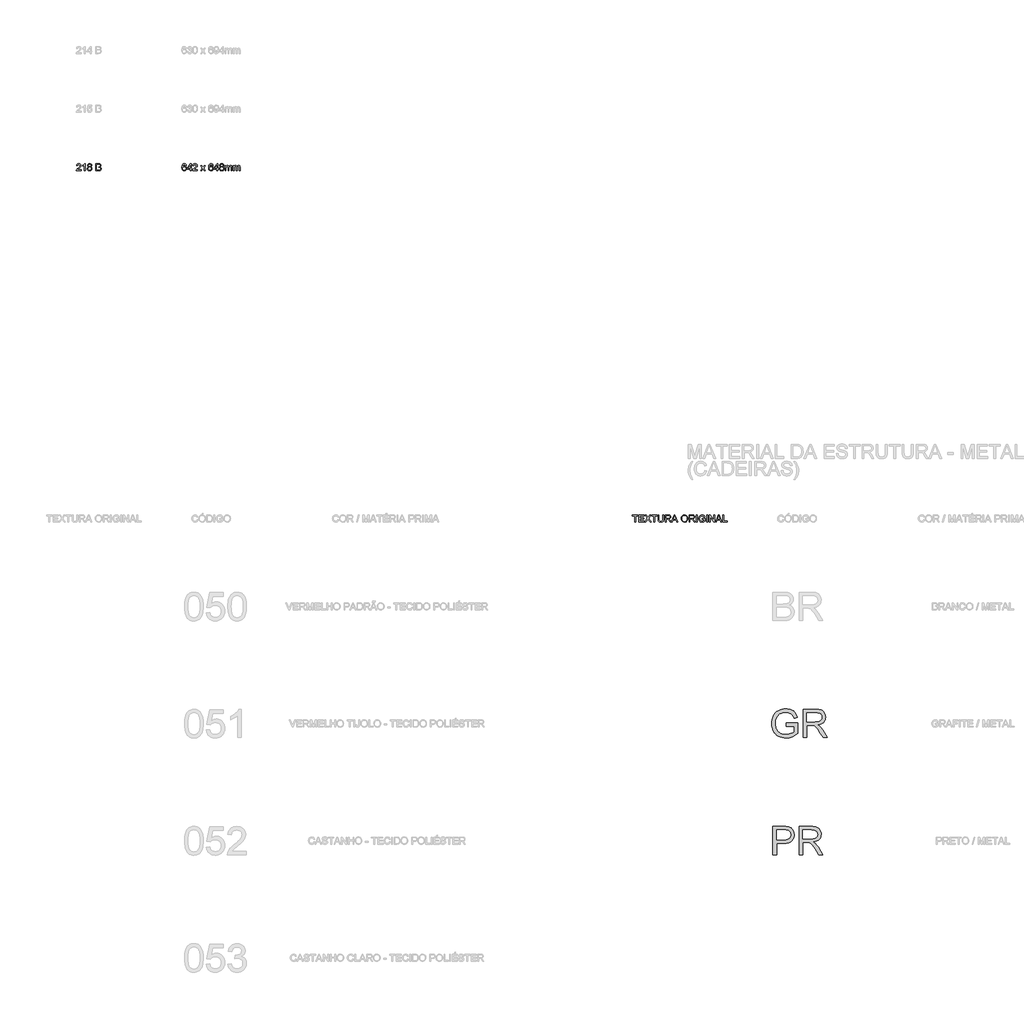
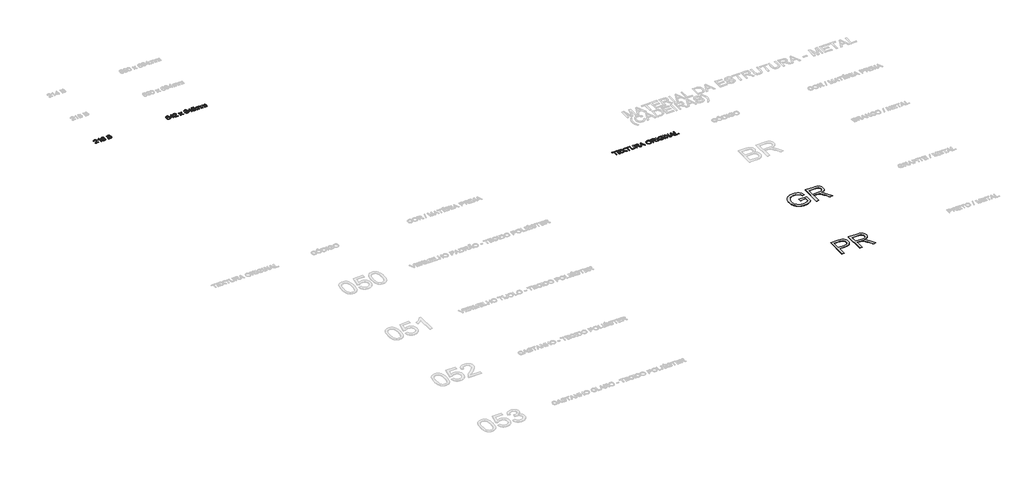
# One storey, part 27 of 35: 5 proxies.
"""IFC4 building model written with IfcOpenShell, lengths in millimetres."""

from ifc_helpers import new_model, si_unit, origin, origin_with_axes, place, context, project, spatial, polyline, outline, extrude, element, save

model = new_model("IFC4")

# Units and contexts
model_context = context("Model", 3, world=origin())
ifc_project = project(units=[si_unit("LENGTHUNIT", "METRE", prefix="MILLI")], contexts=[model_context])

# Site, building, storey
site = spatial("IfcSite", under=ifc_project)
building = spatial("IfcBuilding", under=site)
storey = spatial("IfcBuildingStorey", under=building, Name="Marelli - Linha YOU - Planta Baixa", Elevation=0.0)

# Proxies
placement = place(None, origin())
element("IfcBuildingElementProxy", 1, Name="1200mm Arial", ObjectType="1200mm Arial", at=placement, inside=storey, context=model_context, shape_type="SweptSolid", body=[
    extrude(outline(polyline([(-124.6247047, -30480.5663201), (-124.6247047, -29275.0905983), (322.1311902, -29275.0905983), (426.1682184, -29277.9600778), (502.246215, -29286.5685165), (544.1755654, -29295.6092166), (582.5548546, -29308.0160368), (617.3840825, -29323.7889774), (648.6632491, -29342.9280382), (676.7234483, -29365.8286924), (701.8957738, -29392.8864131), (724.1802257, -29424.1012004), (743.5768039, -29459.4730543), (759.2853651, -29497.8339493), (770.5057659, -29538.0158602), (777.2380064, -29580.018787), (779.4820866, -29623.8427297), (773.4212307, -29697.842193), (765.8451609, -29732.6208371), (755.2386631, -29765.9187562), (741.6017374, -29797.7359503), (724.9343838, -29828.0724193), (705.2366022, -29856.9281633), (682.5083927, -29884.3031823), (655.8254517, -29909.2731727), (624.2634758, -29930.9138311), (587.8224649, -29949.2251574), (546.5024191, -29964.2071516), (500.3033382, -29975.8598138), (449.2252225, -29984.183144), (393.2680718, -29989.1771421), (332.4318861, -29990.8418081), (26.0597605, -29990.8418081), (26.0597605, -30480.5663201), (-124.6247047, -30480.5663201)]), holes=[polyline([(26.0597605, -29840.1573429), (341.2610539, -29840.1573429), (413.733807, -29836.6992521), (474.8757946, -29826.3249798), (524.6870167, -29809.0345261), (563.1674734, -29784.8278908), (591.8806632, -29754.3488675), (612.3900844, -29718.2412497), (624.6957371, -29676.5050373), (628.7976214, -29629.1402304), (626.3787973, -29593.9707117), (619.1223249, -29561.4499433), (607.0282043, -29531.5779253), (590.0964355, -29504.3546577), (569.2283293, -29480.6630572), (545.3251967, -29461.3860406), (518.3870376, -29446.523608), (488.413852, -29436.0757594), (430.2884968, -29428.3502375), (337.7293868, -29425.7750635), (26.0597605, -29425.7750635), (26.0597605, -29840.1573429)])]), origin_with_axes(), (0.0, 0.0, 1.0), 10.0),
    extrude(outline(polyline([(986.6732263, -30480.5663201), (986.6732263, -29275.0905983), (1506.1226035, -29275.0905983), (1580.6830868, -29277.1231463), (1645.7338206, -29283.2207904), (1701.2748049, -29293.3835305), (1747.3060395, -29307.6113666), (1786.5038661, -29326.9987478), (1821.5446261, -29352.6401229), (1852.4283196, -29384.5354918), (1879.1549466, -29422.6848547), (1900.7220286, -29465.0372694), (1916.1270871, -29509.5417938), (1925.3701222, -29556.1984278), (1928.4511339, -29605.0071715), (1923.3467713, -29666.9217113), (1908.0336832, -29723.7594796), (1882.5118698, -29775.5204763), (1846.781331, -29822.2047015), (1824.9728265, -29843.2705442), (1800.3822144, -29862.3222331), (1742.8546674, -29894.383149), (1674.19869, -29918.3874491), (1594.4142823, -29934.3351336), (1644.0783517, -29966.7823256), (1680.0572108, -29998.7880592), (1741.7878096, -30071.9965762), (1802.1940332, -30153.8871084), (2003.2047554, -30480.5663201), (1828.0929257, -30480.5663201), (1671.2280429, -30230.7008689), (1608.4673745, -30135.3458558), (1557.9203884, -30065.3011239), (1515.7978999, -30017.0717943), (1478.3107246, -29987.1629881), (1442.8101121, -29969.615017), (1406.647312, -29958.4681925), (1371.4042168, -29954.495067), (1319.2385499, -29953.1706918), (1137.3576915, -29953.1706918), (1137.3576915, -30480.5663201), (986.6732263, -30480.5663201)]), holes=[polyline([(1137.3576915, -29802.4862266), (1474.6319047, -29802.4862266), (1571.495234, -29797.1519376), (1611.7875095, -29790.4840765), (1646.6535256, -29781.1490708), (1676.8750315, -29768.8802063), (1703.2337765, -29753.4107684), (1725.7297605, -29734.7407571), (1744.3629836, -29712.8701725), (1758.9770958, -29688.8750694), (1769.4157474, -29663.8315026), (1775.6789384, -29637.7394721), (1777.7666687, -29610.5989779), (1773.7843461, -29572.0633389), (1761.8373783, -29537.0961552), (1741.9257653, -29505.6974269), (1714.0495071, -29477.867154), (1677.5648103, -29455.0768644), (1631.8278812, -29438.7980861), (1576.83872, -29429.0308192), (1512.5973266, -29425.7750635), (1137.3576915, -29425.7750635), (1137.3576915, -29802.4862266)])]), origin_with_axes(), (0.0, 0.0, 1.0), 10.0),
])
element("IfcBuildingElementProxy", 2, Name="1200mm Arial", ObjectType="1200mm Arial", at=placement, inside=storey, context=model_context, shape_type="SweptSolid", body=[
    extrude(outline(polyline([(440.4420398, -25009.6773662), (440.4420398, -24858.992901), (930.1665518, -24858.992901), (930.1665518, -25309.5747687), (871.1306887, -25353.886155), (811.1567264, -25392.3482176), (750.244665, -25424.9609565), (688.3945046, -25451.7243716), (625.6798215, -25472.5832808), (562.1741921, -25487.4825016), (497.8776163, -25496.4220341), (432.7900943, -25499.4018782), (346.2366579, -25494.6653975), (263.7483176, -25480.4559555), (185.3250732, -25456.773552), (110.966925, -25423.6181872), (43.0743028, -25381.4865017), (-15.9523634, -25330.8751362), (-66.1130734, -25271.7840908), (-107.4078274, -25204.2133653), (-139.6618813, -25130.3242666), (-162.7004912, -25052.2781013), (-176.5236572, -24970.0748695), (-181.1313792, -24883.7145711), (-176.5420513, -24797.3450757), (-162.7740676, -24713.9370303), (-139.8274282, -24633.490435), (-107.702133, -24556.0052898), (-66.9683991, -24484.8845031), (-18.1964435, -24423.5309833), (38.6137336, -24371.9447306), (103.4621323, -24330.1257448), (174.9416039, -24297.8073115), (251.6449999, -24274.7227163), (333.5723202, -24260.8719592), (420.7235649, -24256.2550401), (484.348756, -24258.9313816), (544.8469501, -24266.9604062), (602.2181472, -24280.3421138), (656.4623474, -24299.0765044), (706.3011607, -24322.5841639), (750.4561972, -24350.2856781), (788.9274568, -24382.1810471), (821.7149396, -24418.2702708), (849.8671093, -24459.3718867), (874.4324296, -24506.3044322), (895.4109003, -24559.0679074), (912.8025217, -24617.6623122), (773.8902803, -24656.8049565), (759.2209857, -24614.6548769), (742.8778281, -24577.3792337), (724.8608074, -24544.978027), (705.1699236, -24517.4512567), (682.4348163, -24493.6125034), (655.285125, -24472.2753477), (623.7208498, -24453.4397895), (587.7419907, -24437.1058289), (548.516573, -24423.9080624), (507.212622, -24414.4810862), (463.8301377, -24408.8249006), (418.3691201, -24406.9395053), (364.4836049, -24408.9720534), (314.3688801, -24415.0696974), (268.0249458, -24425.2324376), (225.4518019, -24439.4602737), (186.7322219, -24456.9898508), (151.9489792, -24477.0578136), (121.1020739, -24499.6641622), (94.191506, -24524.8088966), (49.8617256, -24580.2487133), (16.6419814, -24640.9124543), (-3.9594103, -24696.6465765), (-18.6746901, -24754.6615672), (-27.503858, -24814.9574262), (-30.446914, -24877.5341536), (-26.9060498, -24952.7752186), (-16.2834572, -25021.6335311), (1.4208639, -25084.1090909), (26.2069133, -25140.2018981), (57.7527944, -25189.7004206), (95.7366104, -25232.3931261), (140.1583613, -25268.2800148), (191.0180471, -25297.3610865), (245.9336319, -25319.8294793), (302.5230799, -25335.8783314), (360.7863908, -25345.5076426), (420.7235649, -25348.717413), (473.2295227, -25346.2985889), (525.0916869, -25339.0421165), (576.3100577, -25326.9479959), (626.884635, -25310.0162271), (715.2866784, -25270.0274542), (750.4102119, -25249.0673776), (779.4820866, -25227.4635074), (779.4820866, -25009.6773662), (440.4420398, -25009.6773662)])), origin_with_axes(), (0.0, 0.0, 1.0), 10.0),
    extrude(outline(polyline([(1175.0288078, -25480.5663201), (1175.0288078, -24275.0905983), (1694.478185, -24275.0905983), (1769.0386684, -24277.1231463), (1834.0894022, -24283.2207904), (1889.6303864, -24293.3835305), (1935.661621, -24307.6113666), (1974.8594476, -24326.9987478), (2009.9002077, -24352.6401229), (2040.7839012, -24384.5354918), (2067.5105281, -24422.6848547), (2089.0776101, -24465.0372694), (2104.4826686, -24509.5417938), (2113.7257038, -24556.1984278), (2116.8067155, -24605.0071715), (2111.7023528, -24666.9217113), (2096.3892647, -24723.7594796), (2070.8674513, -24775.5204763), (2035.1369125, -24822.2047015), (2013.328408, -24843.2705442), (1988.7377959, -24862.3222331), (1931.2102489, -24894.383149), (1862.5542716, -24918.3874491), (1782.7698638, -24934.3351336), (1832.4339332, -24966.7823256), (1868.4127923, -24998.7880592), (1930.1433911, -25071.9965762), (1990.5496147, -25153.8871084), (2191.5603369, -25480.5663201), (2016.4485072, -25480.5663201), (1859.5836244, -25230.7008689), (1796.8229561, -25135.3458558), (1746.2759699, -25065.3011239), (1704.1534815, -25017.0717943), (1666.6663062, -24987.1629881), (1631.1656936, -24969.615017), (1595.0028935, -24958.4681925), (1559.7597984, -24954.495067), (1507.5941315, -24953.1706918), (1325.713273, -24953.1706918), (1325.713273, -25480.5663201), (1175.0288078, -25480.5663201)]), holes=[polyline([(1325.713273, -24802.4862266), (1662.9874862, -24802.4862266), (1759.8508155, -24797.1519376), (1800.1430911, -24790.4840765), (1835.0091072, -24781.1490708), (1865.2306131, -24768.8802063), (1891.589358, -24753.4107684), (1914.085342, -24734.7407571), (1932.7185651, -24712.8701725), (1947.3326773, -24688.8750694), (1957.771329, -24663.8315026), (1964.0345199, -24637.7394721), (1966.1222502, -24610.5989779), (1962.1399276, -24572.0633389), (1950.1929599, -24537.0961552), (1930.2813469, -24505.6974269), (1902.4050887, -24477.867154), (1865.9203918, -24455.0768644), (1820.1834628, -24438.7980861), (1765.1943015, -24429.0308192), (1700.9529081, -24425.7750635), (1325.713273, -24425.7750635), (1325.713273, -24802.4862266)])]), origin_with_axes(), (0.0, 0.0, 1.0), 10.0),
])
element("IfcBuildingElementProxy", 3, Name="300mm Arial", ObjectType="300mm Arial", at=placement, inside=storey, context=model_context, shape_type="SweptSolid", body=[
    extrude(outline(polyline([(-29649.0268614, -1242.8952038), (-29649.0268614, -1280.5663201), (-29846.800222, -1280.5663201), (-29842.75352, -1254.5938512), (-29833.4644997, -1234.2959621), (-29819.8712599, -1214.6050783), (-29800.2079673, -1193.9944896), (-29772.7087882, -1170.9374855), (-29732.0578277, -1134.8298677), (-29707.6672514, -1108.1768171), (-29695.4719633, -1086.5453558), (-29691.4068672, -1065.5025057), (-29695.242037, -1046.6393564), (-29706.7475464, -1030.9583863), (-29724.4334733, -1020.390976), (-29746.8098957, -1016.8685059), (-29770.3083581, -1020.3082026), (-29788.5645022, -1030.6272925), (-29800.345923, -1047.0164354), (-29804.4202161, -1068.6662908), (-29842.0913324, -1063.9574013), (-29832.9586619, -1027.5186897), (-29824.4123033, -1012.9827524), (-29813.2125958, -1000.9024273), (-29799.6170568, -991.4064733), (-29783.8832038, -984.623649), (-29746.0005553, -979.1973896), (-29725.8107316, -980.7057058), (-29707.8419954, -985.2306543), (-29692.0943467, -992.7722352), (-29678.5677856, -1003.3304485), (-29667.7037704, -1016.1235449), (-29659.9437596, -1030.3697751), (-29655.2877531, -1046.0691393), (-29653.7357509, -1063.2216373), (-29655.409614, -1081.238658), (-29660.4312032, -1098.942979), (-29669.3431446, -1116.9508027), (-29682.6880639, -1135.8783314), (-29703.9608403, -1158.4754829), (-29736.6563526, -1187.4921753), (-29779.9928517, -1223.7285518), (-29796.9889998, -1242.8952038), (-29649.0268614, -1242.8952038)])), origin_with_axes(), (0.0, 0.0, 1.0), 10.0),
    extrude(outline(polyline([(-29470.0890589, -1280.5663201), (-29507.7601752, -1280.5663201), (-29507.7601752, -1045.7104543), (-29543.4447288, -1071.1311002), (-29583.1024078, -1090.1505994), (-29583.1024078, -1054.5396222), (-29553.5154984, -1038.4447849), (-29527.8833204, -1019.2965271), (-29507.6774018, -998.9342587), (-29494.3692706, -979.1973896), (-29470.0890589, -979.1973896), (-29470.0890589, -1280.5663201)])), origin_with_axes(), (0.0, 0.0, 1.0), 10.0),
    extrude(outline(polyline([(-29325.732164, -1114.5779638), (-29345.9012944, -1104.64515), (-29360.0555542, -1091.180669), (-29368.4156725, -1074.4604323), (-29371.2023786, -1054.7603514), (-29369.6848654, -1039.3966796), (-29365.1323257, -1025.3113977), (-29357.5447596, -1012.5045058), (-29346.9221669, -1000.9760037), (-29333.7749841, -991.4478601), (-29318.6136474, -984.6420431), (-29282.2485122, -979.1973896), (-29245.6626478, -984.7708018), (-29230.3357641, -991.7375671), (-29216.9862462, -1001.4910385), (-29206.1705156, -1013.2448683), (-29198.4449937, -1026.2127086), (-29193.8096805, -1040.3945595), (-29192.2645762, -1055.790421), (-29195.0144941, -1074.8559054), (-29203.2642478, -1091.2910335), (-29217.1058079, -1104.6727411), (-29236.6311448, -1114.5779638), (-29213.445382, -1126.5249316), (-29196.5687955, -1144.1188881), (-29186.2772967, -1166.5137045), (-29182.8467971, -1192.8632524), (-29184.5482513, -1211.6528253), (-29189.652614, -1228.8788997), (-29198.1598851, -1244.5414757), (-29210.0700647, -1258.6405532), (-29224.7577534, -1270.2932154), (-29241.5975517, -1278.6165455), (-29260.5894597, -1283.6105436), (-29281.7334774, -1285.2752096), (-29302.8774951, -1283.6036458), (-29321.8694031, -1278.5889543), (-29338.7092014, -1270.2311353), (-29353.3968901, -1258.5301886), (-29365.3070696, -1244.3322428), (-29373.8143408, -1228.4834266), (-29378.9187035, -1210.9837399), (-29380.6201577, -1191.8331828), (-29377.0517023, -1164.4627624), (-29366.3463363, -1141.9483843), (-29349.0558825, -1125.0626007), (-29325.732164, -1114.5779638)]), holes=[polyline([(-29333.5312623, -1055.8639974), (-29330.1927332, -1072.3083226), (-29320.1771459, -1085.4417098), (-29303.778806, -1094.0501485), (-29281.292019, -1096.9196281), (-29259.3294639, -1094.0685426), (-29243.1794443, -1085.5152862), (-29233.2466304, -1072.8233574), (-29229.9356925, -1057.5562546), (-29233.356995, -1041.7097376), (-29243.6209027, -1028.6039416), (-29259.9916515, -1019.8023648), (-29281.7334774, -1016.8685059), (-29303.6132591, -1019.7379855), (-29319.9564167, -1028.3464242), (-29330.1375509, -1040.9647766), (-29333.5312623, -1055.8639974)]), polyline([(-29342.9490414, -1190.5088076), (-29336.6582593, -1218.8725095), (-29327.948653, -1231.0402065), (-29314.4013986, -1240.0993006), (-29298.1778026, -1245.7278951), (-29281.4391718, -1247.6040933), (-29255.7977967, -1243.6585589), (-29236.5575684, -1231.8219557), (-29224.5278271, -1213.8969055), (-29220.5179134, -1191.68603), (-29224.6565858, -1169.0980755), (-29237.0726032, -1150.7775522), (-29256.7542899, -1138.6374463), (-29282.6899706, -1134.5907444), (-29307.9726607, -1138.582264), (-29327.019751, -1150.556823), (-29338.9667188, -1168.5278584), (-29342.9490414, -1190.5088076)])]), origin_with_axes(), (0.0, 0.0, 1.0), 10.0),
    extrude(outline(polyline([(-29018.0356633, -1280.5663201), (-29018.0356633, -979.1973896), (-28903.0357516, -979.1973896), (-28871.407097, -981.4138786), (-28846.7130181, -988.0633457), (-28827.7854894, -999.3113377), (-28813.4564857, -1015.3234015), (-28804.4341798, -1034.1589597), (-28801.4267445, -1053.8774346), (-28803.9559332, -1072.0232141), (-28811.5434994, -1089.0837416), (-28824.2446252, -1104.0105535), (-28842.1144932, -1115.7551862), (-28820.7681404, -1126.9020107), (-28804.9951998, -1143.8613707), (-28795.255524, -1165.5112261), (-28792.0089654, -1190.7295368), (-28794.2254544, -1211.7447958), (-28800.8749215, -1231.2333445), (-28810.7985383, -1247.8064284), (-28822.8374766, -1260.0752929), (-28837.5803476, -1268.9596431), (-28855.6157624, -1275.3791839), (-28903.9186683, -1280.5663201), (-29018.0356633, -1280.5663201)]), holes=[polyline([(-28980.3645469, -1101.6285176), (-28911.5706138, -1101.6285176), (-28871.3979, -1098.3911561), (-28857.3356107, -1092.8085468), (-28847.2280529, -1084.4484284), (-28841.1304088, -1073.4395597), (-28839.0978608, -1059.9106994), (-28840.9924531, -1046.7773121), (-28846.6762299, -1035.3361821), (-28855.8916739, -1026.4058467), (-28868.3812676, -1020.8048433), (-28916.7945382, -1016.8685059), (-28980.3645469, -1016.8685059), (-28980.3645469, -1101.6285176)]), polyline([(-28980.3645469, -1242.8952038), (-28903.109328, -1242.8952038), (-28875.1502963, -1241.4236758), (-28851.495484, -1233.2199073), (-28835.823711, -1216.4812765), (-28831.2159891, -1204.6538704), (-28829.6800817, -1191.0974188), (-28831.4827035, -1175.3520694), (-28836.8905688, -1161.814012), (-28846.3359391, -1151.2282076), (-28860.2510755, -1144.3396173), (-28879.9603534, -1140.5596298), (-28906.7881479, -1139.2996339), (-28980.3645469, -1139.2996339), (-28980.3645469, -1242.8952038)])]), origin_with_axes(), (0.0, 0.0, 1.0), 10.0),
])
element("IfcBuildingElementProxy", 4, Name="300mm Arial", ObjectType="300mm Arial", at=placement, inside=storey, context=model_context, shape_type="SweptSolid", body=[
    extrude(outline(polyline([(-25150.5235972, -1059.2485118), (-25188.1947135, -1063.9574013), (-25194.2647664, -1045.2873901), (-25202.4685349, -1032.5402789), (-25219.5566536, -1020.7864492), (-25240.2132276, -1016.8685059), (-25257.7244106, -1019.1493743), (-25274.205524, -1025.9919794), (-25288.3597837, -1040.4037566), (-25299.9204754, -1060.2417932), (-25307.7287708, -1088.3019923), (-25310.6258415, -1127.3802573), (-25295.5150886, -1109.7495127), (-25277.4060973, -1097.3242983), (-25257.3105434, -1089.9574613), (-25236.2401021, -1087.501849), (-25218.1403079, -1089.1803106), (-25201.4384653, -1094.2156954), (-25186.1345743, -1102.6080034), (-25172.2286349, -1114.3572346), (-25160.6725417, -1128.7644133), (-25152.4181895, -1145.1305635), (-25147.4655781, -1163.4556854), (-25145.8147077, -1183.7397789), (-25148.9233105, -1210.7147262), (-25158.2491191, -1235.7215049), (-25173.0195812, -1256.9299019), (-25192.4621447, -1272.5097044), (-25215.6938927, -1282.0838333), (-25241.8319084, -1285.2752096), (-25264.288805, -1283.1598881), (-25284.5705992, -1276.8139237), (-25302.6772911, -1266.2373164), (-25318.6088808, -1251.4300661), (-25331.5974145, -1231.7667734), (-25340.8749386, -1206.622039), (-25346.441453, -1175.9958629), (-25348.2969578, -1139.8882451), (-25346.2368186, -1099.4074301), (-25340.0564011, -1064.8587122), (-25329.7557053, -1036.2420915), (-25315.334731, -1013.557568), (-25299.7043448, -998.5249899), (-25281.581558, -987.7874342), (-25260.9663707, -981.3449008), (-25237.8587829, -979.1973896), (-25204.8045856, -984.5132844), (-25178.335476, -1000.4609689), (-25159.7942235, -1025.7896443), (-25150.5235972, -1059.2485118)]), holes=[polyline([(-25310.6258415, -1183.1511677), (-25308.4461407, -1199.8438133), (-25301.9070382, -1215.7823007), (-25291.7534952, -1229.485905), (-25278.7304725, -1239.4739012), (-25263.0127143, -1245.5715453), (-25244.7749644, -1247.6040933), (-25219.9153385, -1243.3918445), (-25200.3716076, -1230.7550979), (-25187.7072699, -1210.8894702), (-25183.485824, -1184.9905777), (-25187.6520876, -1160.1309519), (-25200.1508784, -1141.1758321), (-25220.0257031, -1129.173682), (-25246.3200687, -1125.1729653), (-25271.1429064, -1129.173682), (-25291.900648, -1141.1758321), (-25305.9445431, -1159.6710994), (-25310.6258415, -1183.1511677)])]), origin_with_axes(), (0.0, 0.0, 1.0), 10.0),
    extrude(outline(polyline([(-24990.4213529, -1280.5663201), (-24990.4213529, -1209.932977), (-25126.9791495, -1209.932977), (-25126.9791495, -1172.2618607), (-24981.0035738, -983.9062792), (-24952.7502366, -983.9062792), (-24952.7502366, -1172.2618607), (-24915.0791203, -1172.2618607), (-24915.0791203, -1209.932977), (-24952.7502366, -1209.932977), (-24952.7502366, -1280.5663201), (-24990.4213529, -1280.5663201)]), holes=[polyline([(-24990.4213529, -1172.2618607), (-24990.4213529, -1055.8639974), (-25080.6260181, -1172.2618607), (-24990.4213529, -1172.2618607)])]), origin_with_axes(), (0.0, 0.0, 1.0), 10.0),
    extrude(outline(polyline([(-24689.0524225, -1242.8952038), (-24689.0524225, -1280.5663201), (-24886.8257831, -1280.5663201), (-24882.7790811, -1254.5938512), (-24873.4900607, -1234.2959621), (-24859.896821, -1214.6050783), (-24840.2335284, -1193.9944896), (-24812.7343492, -1170.9374855), (-24772.0833888, -1134.8298677), (-24747.6928125, -1108.1768171), (-24735.4975243, -1086.5453558), (-24731.4324283, -1065.5025057), (-24735.2675981, -1046.6393564), (-24746.7731075, -1030.9583863), (-24764.4590344, -1020.390976), (-24786.8354568, -1016.8685059), (-24810.3339192, -1020.3082026), (-24828.5900632, -1030.6272925), (-24840.3714841, -1047.0164354), (-24844.4457772, -1068.6662908), (-24882.1168935, -1063.9574013), (-24872.984223, -1027.5186897), (-24864.4378644, -1012.9827524), (-24853.2381569, -1000.9024273), (-24839.6426179, -991.4064733), (-24823.9087648, -984.623649), (-24786.0261164, -979.1973896), (-24765.8362926, -980.7057058), (-24747.8675564, -985.2306543), (-24732.1199078, -992.7722352), (-24718.5933467, -1003.3304485), (-24707.7293315, -1016.1235449), (-24699.9693207, -1030.3697751), (-24695.3133142, -1046.0691393), (-24693.761312, -1063.2216373), (-24695.4351751, -1081.238658), (-24700.4567643, -1098.942979), (-24709.3687056, -1116.9508027), (-24722.713625, -1135.8783314), (-24743.9864014, -1158.4754829), (-24776.6819137, -1187.4921753), (-24820.0184127, -1223.7285518), (-24837.0145609, -1242.8952038), (-24689.0524225, -1242.8952038)])), origin_with_axes(), (0.0, 0.0, 1.0), 10.0),
    extrude(outline(polyline([(-24547.7857363, -1280.5663201), (-24467.2931558, -1169.3188047), (-24543.0768468, -1059.2485118), (-24497.753785, -1059.2485118), (-24461.1863146, -1112.2235191), (-24444.1165901, -1137.2394947), (-24429.3277339, -1116.7852558), (-24387.683492, -1059.2485118), (-24342.3604302, -1059.2485118), (-24421.970094, -1169.3188047), (-24345.3034862, -1280.5663201), (-24390.626548, -1280.5663201), (-24436.7589502, -1213.6853733), (-24445.2202361, -1201.4716911), (-24502.4626745, -1280.5663201), (-24547.7857363, -1280.5663201)])), origin_with_axes(), (0.0, 0.0, 1.0), 10.0),
    extrude(outline(polyline([(-24010.9723289, -1059.2485118), (-24048.6434453, -1063.9574013), (-24054.7134982, -1045.2873901), (-24062.9172667, -1032.5402789), (-24080.0053853, -1020.7864492), (-24100.6619594, -1016.8685059), (-24118.1731423, -1019.1493743), (-24134.6542557, -1025.9919794), (-24148.8085155, -1040.4037566), (-24160.3692072, -1060.2417932), (-24168.1775025, -1088.3019923), (-24171.0745732, -1127.3802573), (-24155.9638203, -1109.7495127), (-24137.8548291, -1097.3242983), (-24117.7592751, -1089.9574613), (-24096.6888338, -1087.501849), (-24078.5890397, -1089.1803106), (-24061.8871971, -1094.2156954), (-24046.5833061, -1102.6080034), (-24032.6773667, -1114.3572346), (-24021.1212735, -1128.7644133), (-24012.8669212, -1145.1305635), (-24007.9143099, -1163.4556854), (-24006.2634394, -1183.7397789), (-24009.3720423, -1210.7147262), (-24018.6978508, -1235.7215049), (-24033.468313, -1256.9299019), (-24052.9108764, -1272.5097044), (-24076.1426244, -1282.0838333), (-24102.2806401, -1285.2752096), (-24124.7375367, -1283.1598881), (-24145.0193309, -1276.8139237), (-24163.1260229, -1266.2373164), (-24179.0576125, -1251.4300661), (-24192.0461462, -1231.7667734), (-24201.3236703, -1206.622039), (-24206.8901847, -1175.9958629), (-24208.7456896, -1139.8882451), (-24206.6855504, -1099.4074301), (-24200.5051329, -1064.8587122), (-24190.204437, -1036.2420915), (-24175.7834628, -1013.557568), (-24160.1530765, -998.5249899), (-24142.0302897, -987.7874342), (-24121.4151024, -981.3449008), (-24098.3075146, -979.1973896), (-24065.2533173, -984.5132844), (-24038.7842078, -1000.4609689), (-24020.2429552, -1025.7896443), (-24010.9723289, -1059.2485118)]), holes=[polyline([(-24171.0745732, -1183.1511677), (-24168.8948724, -1199.8438133), (-24162.35577, -1215.7823007), (-24152.2022269, -1229.485905), (-24139.1792043, -1239.4739012), (-24123.461446, -1245.5715453), (-24105.2236961, -1247.6040933), (-24080.3640703, -1243.3918445), (-24060.8203393, -1230.7550979), (-24048.1560016, -1210.8894702), (-24043.9345557, -1184.9905777), (-24048.1008193, -1160.1309519), (-24060.5996101, -1141.1758321), (-24080.4744349, -1129.173682), (-24106.7688005, -1125.1729653), (-24131.5916381, -1129.173682), (-24152.3493797, -1141.1758321), (-24166.3932749, -1159.6710994), (-24171.0745732, -1183.1511677)])]), origin_with_axes(), (0.0, 0.0, 1.0), 10.0),
    extrude(outline(polyline([(-23850.8700846, -1280.5663201), (-23850.8700846, -1209.932977), (-23987.4278813, -1209.932977), (-23987.4278813, -1172.2618607), (-23841.4523056, -983.9062792), (-23813.1989683, -983.9062792), (-23813.1989683, -1172.2618607), (-23775.527852, -1172.2618607), (-23775.527852, -1209.932977), (-23813.1989683, -1209.932977), (-23813.1989683, -1280.5663201), (-23850.8700846, -1280.5663201)]), holes=[polyline([(-23850.8700846, -1172.2618607), (-23850.8700846, -1055.8639974), (-23941.0747499, -1172.2618607), (-23850.8700846, -1172.2618607)])]), origin_with_axes(), (0.0, 0.0, 1.0), 10.0),
    extrude(outline(polyline([(-23687.6776316, -1114.5779638), (-23707.846762, -1104.64515), (-23722.0010217, -1091.180669), (-23730.3611401, -1074.4604323), (-23733.1478462, -1054.7603514), (-23731.630333, -1039.3966796), (-23727.0777933, -1025.3113977), (-23719.4902271, -1012.5045058), (-23708.8676345, -1000.9760037), (-23695.7204517, -991.4478601), (-23680.559115, -984.6420431), (-23644.1939798, -979.1973896), (-23607.6081153, -984.7708018), (-23592.2812317, -991.7375671), (-23578.9317138, -1001.4910385), (-23568.1159832, -1013.2448683), (-23560.3904613, -1026.2127086), (-23555.7551481, -1040.3945595), (-23554.2100437, -1055.790421), (-23556.9599616, -1074.8559054), (-23565.2097154, -1091.2910335), (-23579.0512755, -1104.6727411), (-23598.5766124, -1114.5779638), (-23575.3908496, -1126.5249316), (-23558.5142631, -1144.1188881), (-23548.2227643, -1166.5137045), (-23544.7922647, -1192.8632524), (-23546.4937189, -1211.6528253), (-23551.5980816, -1228.8788997), (-23560.1053527, -1244.5414757), (-23572.0155323, -1258.6405532), (-23586.703221, -1270.2932154), (-23603.5430193, -1278.6165455), (-23622.5349273, -1283.6105436), (-23643.678945, -1285.2752096), (-23664.8229626, -1283.6036458), (-23683.8148706, -1278.5889543), (-23700.654669, -1270.2311353), (-23715.3423576, -1258.5301886), (-23727.2525372, -1244.3322428), (-23735.7598084, -1228.4834266), (-23740.864171, -1210.9837399), (-23742.5656253, -1191.8331828), (-23738.9971699, -1164.4627624), (-23728.2918039, -1141.9483843), (-23711.0013501, -1125.0626007), (-23687.6776316, -1114.5779638)]), holes=[polyline([(-23695.4767299, -1055.8639974), (-23692.1382008, -1072.3083226), (-23682.1226135, -1085.4417098), (-23665.7242735, -1094.0501485), (-23643.2374866, -1096.9196281), (-23621.2749315, -1094.0685426), (-23605.1249119, -1085.5152862), (-23595.192098, -1072.8233574), (-23591.88116, -1057.5562546), (-23595.3024626, -1041.7097376), (-23605.5663703, -1028.6039416), (-23621.937119, -1019.8023648), (-23643.678945, -1016.8685059), (-23665.5587266, -1019.7379855), (-23681.9018843, -1028.3464242), (-23692.0830185, -1040.9647766), (-23695.4767299, -1055.8639974)]), polyline([(-23704.894509, -1190.5088076), (-23698.6037268, -1218.8725095), (-23689.8941206, -1231.0402065), (-23676.3468661, -1240.0993006), (-23660.1232701, -1245.7278951), (-23643.3846394, -1247.6040933), (-23617.7432643, -1243.6585589), (-23598.503036, -1231.8219557), (-23586.4732947, -1213.8969055), (-23582.463381, -1191.68603), (-23586.6020534, -1169.0980755), (-23599.0180707, -1150.7775522), (-23618.6997575, -1138.6374463), (-23644.6354381, -1134.5907444), (-23669.9181283, -1138.582264), (-23688.9652186, -1150.556823), (-23700.9121864, -1168.5278584), (-23704.894509, -1190.5088076)])]), origin_with_axes(), (0.0, 0.0, 1.0), 10.0),
    extrude(outline(polyline([(-23502.4122588, -1280.5663201), (-23502.4122588, -1059.2485118), (-23464.7411425, -1059.2485118), (-23464.7411425, -1095.6688293), (-23453.4103771, -1078.9393956), (-23438.84225, -1065.8335995), (-23421.5334022, -1057.3631165), (-23401.9804741, -1054.5396222), (-23381.0295945, -1057.4182988), (-23364.2357814, -1066.0543287), (-23351.6910054, -1079.8774946), (-23343.4872369, -1098.3175797), (-23329.7560414, -1079.1647233), (-23314.0934655, -1065.4841116), (-23296.4995091, -1057.2757446), (-23276.9741722, -1054.5396222), (-23248.6564556, -1059.0921619), (-23227.714773, -1072.749781), (-23214.7745238, -1095.8803614), (-23210.4611074, -1128.8517853), (-23210.4611074, -1280.5663201), (-23248.1322237, -1280.5663201), (-23248.1322237, -1145.038593), (-23251.6271027, -1113.5846825), (-23256.5383273, -1104.9118644), (-23264.2822433, -1098.0968505), (-23274.2426484, -1093.6822665), (-23285.8033401, -1092.2107385), (-23306.2115937, -1095.981529), (-23322.849057, -1107.2939003), (-23333.913108, -1126.9204048), (-23337.601125, -1155.6335945), (-23337.601125, -1280.5663201), (-23375.2722413, -1280.5663201), (-23375.2722413, -1140.8447383), (-23377.4519421, -1119.5443708), (-23383.9910446, -1104.3508444), (-23395.496554, -1095.245765), (-23412.5754756, -1092.2107385), (-23427.0884203, -1094.2340895), (-23440.4609308, -1100.3041424), (-23451.4973907, -1110.2737445), (-23459.0021834, -1123.9957429), (-23463.3064027, -1143.0336362), (-23464.7411425, -1168.9509227), (-23464.7411425, -1280.5663201), (-23502.4122588, -1280.5663201)])), origin_with_axes(), (0.0, 0.0, 1.0), 10.0),
    extrude(outline(polyline([(-23153.954433, -1280.5663201), (-23153.954433, -1059.2485118), (-23116.2833167, -1059.2485118), (-23116.2833167, -1095.6688293), (-23104.9525512, -1078.9393956), (-23090.3844242, -1065.8335995), (-23073.0755763, -1057.3631165), (-23053.5226483, -1054.5396222), (-23032.5717687, -1057.4182988), (-23015.7779556, -1066.0543287), (-23003.2331796, -1079.8774946), (-22995.0294111, -1098.3175797), (-22981.2982156, -1079.1647233), (-22965.6356397, -1065.4841116), (-22948.0416832, -1057.2757446), (-22928.5163463, -1054.5396222), (-22900.1986298, -1059.0921619), (-22879.2569472, -1072.749781), (-22866.316698, -1095.8803614), (-22862.0032816, -1128.8517853), (-22862.0032816, -1280.5663201), (-22899.6743979, -1280.5663201), (-22899.6743979, -1145.038593), (-22903.1692769, -1113.5846825), (-22908.0805015, -1104.9118644), (-22915.8244175, -1098.0968505), (-22925.7848225, -1093.6822665), (-22937.3455142, -1092.2107385), (-22957.7537679, -1095.981529), (-22974.3912311, -1107.2939003), (-22985.4552821, -1126.9204048), (-22989.1432991, -1155.6335945), (-22989.1432991, -1280.5663201), (-23026.8144154, -1280.5663201), (-23026.8144154, -1140.8447383), (-23028.9941163, -1119.5443708), (-23035.5332187, -1104.3508444), (-23047.0387281, -1095.245765), (-23064.1176498, -1092.2107385), (-23078.6305945, -1094.2340895), (-23092.003105, -1100.3041424), (-23103.0395648, -1110.2737445), (-23110.5443576, -1123.9957429), (-23114.8485769, -1143.0336362), (-23116.2833167, -1168.9509227), (-23116.2833167, -1280.5663201), (-23153.954433, -1280.5663201)])), origin_with_axes(), (0.0, 0.0, 1.0), 10.0),
])
element("IfcBuildingElementProxy", 5, Name="300mm Arial", ObjectType="300mm Arial", at=placement, inside=storey, context=model_context, shape_type="SweptSolid", body=[
    extrude(outline(polyline([(-6021.6681618, -16280.5663201), (-6021.6681618, -16016.8685059), (-6120.5548421, -16016.8685059), (-6120.5548421, -15979.1973896), (-5885.1103652, -15979.1973896), (-5885.1103652, -16016.8685059), (-5983.9970455, -16016.8685059), (-5983.9970455, -16280.5663201), (-6021.6681618, -16280.5663201)])), origin_with_axes(), (0.0, 0.0, 1.0), 10.0),
    extrude(outline(polyline([(-5842.7303593, -16280.5663201), (-5842.7303593, -15979.1973896), (-5626.1214406, -15979.1973896), (-5626.1214406, -16016.8685059), (-5805.059243, -16016.8685059), (-5805.059243, -16106.3374072), (-5635.5392196, -16106.3374072), (-5635.5392196, -16144.0085235), (-5805.059243, -16144.0085235), (-5805.059243, -16242.8952038), (-5621.412551, -16242.8952038), (-5621.412551, -16280.5663201), (-5842.7303593, -16280.5663201)])), origin_with_axes(), (0.0, 0.0, 1.0), 10.0),
    extrude(outline(polyline([(-5597.8681033, -16280.5663201), (-5481.6909693, -16116.3437974), (-5579.0325452, -15979.1973896), (-5533.8566362, -15979.1973896), (-5479.0422189, -16056.3790322), (-5460.5745427, -16086.4717794), (-5438.9430814, -16055.8639974), (-5384.7172753, -15979.1973896), (-5338.8791787, -15979.1973896), (-5436.2207547, -16116.7852558), (-5320.0436206, -16280.5663201), (-5365.2195296, -16280.5663201), (-5442.6219014, -16171.3789439), (-5458.7351328, -16148.717413), (-5476.4670449, -16173.5862359), (-5552.0300067, -16280.5663201), (-5597.8681033, -16280.5663201)])), origin_with_axes(), (0.0, 0.0, 1.0), 10.0),
    extrude(outline(polyline([(-5207.0302717, -16280.5663201), (-5207.0302717, -16016.8685059), (-5305.916952, -16016.8685059), (-5305.916952, -15979.1973896), (-5070.4724751, -15979.1973896), (-5070.4724751, -16016.8685059), (-5169.3591554, -16016.8685059), (-5169.3591554, -16280.5663201), (-5207.0302717, -16280.5663201)])), origin_with_axes(), (0.0, 0.0, 1.0), 10.0),
    extrude(outline(polyline([(-4830.3191086, -15979.1973896), (-4792.6479923, -15979.1973896), (-4792.6479923, -16153.0584205), (-4795.2047722, -16193.7737604), (-4802.8751118, -16225.1265034), (-4817.2041155, -16249.3147446), (-4839.7368877, -16268.5365788), (-4870.5286107, -16281.0905519), (-4909.6344668, -16285.2752096), (-4947.8849972, -16281.6331779), (-4978.4651881, -16270.7070826), (-5001.3842364, -16252.8740029), (-5016.6513392, -16228.5110178), (-5025.2321867, -16195.8338995), (-5028.0924692, -16153.0584205), (-5028.0924692, -15979.1973896), (-4990.4213529, -15979.1973896), (-4990.4213529, -16151.7340454), (-4988.5635488, -16185.588386), (-4982.9901366, -16209.1604248), (-4972.8917758, -16225.4851883), (-4957.4591261, -16237.597703), (-4937.335981, -16245.1024957), (-4913.1661339, -16247.6040933), (-4874.8512241, -16242.6560805), (-4860.5084248, -16236.4710644), (-4849.375396, -16227.812042), (-4841.0382702, -16215.6351479), (-4835.0831804, -16198.8965171), (-4830.3191086, -16151.7340454), (-4830.3191086, -15979.1973896)])), origin_with_axes(), (0.0, 0.0, 1.0), 10.0),
    extrude(outline(polyline([(-4726.7235388, -16280.5663201), (-4726.7235388, -15979.1973896), (-4596.8611945, -15979.1973896), (-4561.9583902, -15981.2299376), (-4536.5653355, -15987.3275817), (-4518.0056888, -15998.5847708), (-4503.6031087, -16016.0959537), (-4494.3600736, -16037.8101885), (-4491.2790618, -16061.6765329), (-4496.3834245, -16091.3646099), (-4511.6965126, -16115.9759154), (-4523.2962917, -16126.0052983), (-4537.6781785, -16134.0205273), (-4574.7882748, -16144.0085235), (-4553.3775426, -16160.1217548), (-4522.843337, -16198.8965171), (-4472.5906565, -16280.5663201), (-4516.3686139, -16280.5663201), (-4555.5848346, -16218.0999573), (-4583.9117482, -16176.750021), (-4603.8141642, -16157.2154871), (-4621.7300173, -16150.0417882), (-4643.5822079, -16148.717413), (-4689.0524225, -16148.717413), (-4689.0524225, -16280.5663201), (-4726.7235388, -16280.5663201)]), holes=[polyline([(-4689.0524225, -16111.0462967), (-4604.7338692, -16111.0462967), (-4580.5180368, -16109.7127245), (-4561.7284639, -16105.7120078), (-4547.5834012, -16098.7774322), (-4537.3010994, -16088.6422832), (-4531.0379085, -16076.3826157), (-4528.9501782, -16063.0744845), (-4532.9325008, -16044.6987789), (-4544.8794685, -16029.8915286), (-4565.434875, -16020.1242616), (-4595.2425137, -16016.8685059), (-4689.0524225, -16016.8685059), (-4689.0524225, -16111.0462967)])]), origin_with_axes(), (0.0, 0.0, 1.0), 10.0),
    extrude(outline(polyline([(-4460.4505507, -16280.5663201), (-4340.1531382, -15979.1973896), (-4308.0738283, -15979.1973896), (-4187.7764158, -16280.5663201), (-4227.5812477, -16280.5663201), (-4262.0885789, -16186.3885293), (-4386.211964, -16186.3885293), (-4420.6457188, -16280.5663201), (-4460.4505507, -16280.5663201)]), holes=[polyline([(-4372.379601, -16148.717413), (-4275.8473655, -16148.717413), (-4302.9970567, -16074.6259792), (-4324.1134832, -16016.8685059), (-4342.875465, -16068.1512561), (-4372.379601, -16148.717413)])]), origin_with_axes(), (0.0, 0.0, 1.0), 10.0),
    extrude(outline(polyline([(-4043.9345557, -16133.8549804), (-4041.4237611, -16098.5061192), (-4033.8913772, -16067.213157), (-4021.3374042, -16039.9760937), (-4003.7618418, -16016.7949295), (-3982.2177525, -15998.2858666), (-3957.7581983, -15985.0651074), (-3930.3831794, -15977.1326519), (-3900.0926956, -15974.4885001), (-3860.5637752, -15979.454907), (-3825.118345, -15994.3541278), (-3795.6877854, -16018.1376988), (-3774.2034768, -16049.7571563), (-3761.0700896, -16087.68579), (-3756.6922939, -16130.3968896), (-3761.3000159, -16173.6782064), (-3775.1231818, -16212.140269), (-3797.3984366, -16243.8149088), (-3827.3624252, -16266.733957), (-3862.5043527, -16280.6398965), (-3900.3134248, -16285.2752096), (-3940.4493505, -16280.1524528), (-3976.0971158, -16264.7841825), (-4005.454099, -16240.5591531), (-4026.7176783, -16208.8661192), (-4039.6303364, -16172.3998164), (-4043.9345557, -16133.8549804)]), holes=[polyline([(-4006.2634394, -16134.2228624), (-4004.3803434, -16159.1974513), (-3998.7310556, -16181.3669401), (-3989.3155757, -16200.7313286), (-3976.133904, -16217.2906169), (-3960.1103438, -16230.5527628), (-3942.1691988, -16240.0257242), (-3922.3104688, -16245.709501), (-3900.534154, -16247.6040933), (-3878.3853586, -16245.6911069), (-3858.2921039, -16239.9521478), (-3840.2543898, -16230.3872159), (-3824.2722164, -16216.9963113), (-3811.1871137, -16200.0875351), (-3801.8406117, -16179.9689885), (-3796.2327106, -16156.6406715), (-3794.3634102, -16130.102584), (-3797.5639835, -16096.7540812), (-3807.1657036, -16067.9305269), (-3822.9202501, -16044.358488), (-3844.5793025, -16026.7645316), (-3870.7081212, -16015.8108452), (-3899.8719664, -16012.1596164), (-3920.8918239, -16013.9185522), (-3940.3941682, -16019.1953595), (-3958.3789992, -16027.9900385), (-3974.846317, -16040.302589), (-3988.5913081, -16056.7262208), (-3998.4091588, -16077.8541437), (-4004.2998693, -16103.6863575), (-4006.2634394, -16134.2228624)])]), origin_with_axes(), (0.0, 0.0, 1.0), 10.0),
    extrude(outline(polyline([(-3704.894509, -16280.5663201), (-3704.894509, -15979.1973896), (-3575.0321647, -15979.1973896), (-3540.1293604, -15981.2299376), (-3514.7363057, -15987.3275817), (-3496.176659, -15998.5847708), (-3481.7740789, -16016.0959537), (-3472.5310438, -16037.8101885), (-3469.450032, -16061.6765329), (-3474.5543947, -16091.3646099), (-3489.8674828, -16115.9759154), (-3501.4672619, -16126.0052983), (-3515.8491487, -16134.0205273), (-3552.959245, -16144.0085235), (-3531.5485128, -16160.1217548), (-3501.0143072, -16198.8965171), (-3450.7616267, -16280.5663201), (-3494.5395841, -16280.5663201), (-3533.7558048, -16218.0999573), (-3562.0827184, -16176.750021), (-3581.9851344, -16157.2154871), (-3599.9009875, -16150.0417882), (-3621.753178, -16148.717413), (-3667.2233927, -16148.717413), (-3667.2233927, -16280.5663201), (-3704.894509, -16280.5663201)]), holes=[polyline([(-3667.2233927, -16111.0462967), (-3582.9048394, -16111.0462967), (-3558.689007, -16109.7127245), (-3539.8994341, -16105.7120078), (-3525.7543714, -16098.7774322), (-3515.4720696, -16088.6422832), (-3509.2088787, -16076.3826157), (-3507.1211484, -16063.0744845), (-3511.1034709, -16044.6987789), (-3523.0504387, -16029.8915286), (-3543.6058452, -16020.1242616), (-3573.4134839, -16016.8685059), (-3667.2233927, -16016.8685059), (-3667.2233927, -16111.0462967)])]), origin_with_axes(), (0.0, 0.0, 1.0), 10.0),
    extrude(outline(polyline([(-3398.816689, -16280.5663201), (-3398.816689, -15979.1973896), (-3361.1455727, -15979.1973896), (-3361.1455727, -16280.5663201), (-3398.816689, -16280.5663201)])), origin_with_axes(), (0.0, 0.0, 1.0), 10.0),
    extrude(outline(polyline([(-3144.5366539, -16162.8440816), (-3144.5366539, -16125.1729653), (-3022.1055259, -16125.1729653), (-3022.1055259, -16237.8184322), (-3051.8579823, -16258.5117945), (-3082.5485377, -16273.355833), (-3114.1036159, -16282.2953654), (-3146.4496403, -16285.2752096), (-3188.7100845, -16280.5387289), (-3226.9054326, -16266.3292869), (-3258.6352547, -16243.1435241), (-3281.4991207, -16211.4780814), (-3295.3222867, -16173.4942654), (-3299.9300087, -16131.3533828), (-3295.3406808, -16088.9089976), (-3281.5726971, -16049.4260625), (-3259.1962748, -16016.3074859), (-3228.7816308, -15992.9561762), (-3191.7359139, -15979.1054191), (-3149.4662726, -15974.4885001), (-3118.4354263, -15977.1648416), (-3090.531577, -15985.1938661), (-3067.0331146, -15997.9961596), (-3049.218429, -16014.9923078), (-3036.0390565, -16037.0008481), (-3026.4465335, -16064.8403181), (-3061.1745938, -16074.6259792), (-3068.9277068, -16054.7695485), (-3078.354683, -16039.7875542), (-3090.8258826, -16028.493577), (-3107.7116662, -16019.7011973), (-3127.8440084, -16014.0450116), (-3150.0548838, -16012.1596164), (-3176.0549438, -16014.1921644), (-3198.2842134, -16020.2898085), (-3216.6599191, -16029.6891935), (-3231.0992874, -16041.6269642), (-3250.4866685, -16070.6528536), (-3259.3158364, -16099.0901318), (-3262.2588924, -16129.8082784), (-3258.7180282, -16165.8331228), (-3248.0954355, -16195.4752146), (-3230.7130113, -16218.5230216), (-3206.8926521, -16234.7650117), (-3179.0163939, -16244.3943229), (-3149.4662726, -16247.6040933), (-3123.3742421, -16245.1852692), (-3097.9260051, -16237.9287968), (-3075.8254943, -16227.9316036), (-3059.7766422, -16217.2906169), (-3059.7766422, -16162.8440816), (-3144.5366539, -16162.8440816)])), origin_with_axes(), (0.0, 0.0, 1.0), 10.0),
    extrude(outline(polyline([(-2956.1810724, -16280.5663201), (-2956.1810724, -15979.1973896), (-2918.5099561, -15979.1973896), (-2918.5099561, -16280.5663201), (-2956.1810724, -16280.5663201)])), origin_with_axes(), (0.0, 0.0, 1.0), 10.0),
    extrude(outline(polyline([(-2843.1677235, -16280.5663201), (-2843.1677235, -15979.1973896), (-2802.8478568, -15979.1973896), (-2645.3943628, -16217.9528045), (-2645.3943628, -15979.1973896), (-2607.7232465, -15979.1973896), (-2607.7232465, -16280.5663201), (-2648.0431132, -16280.5663201), (-2805.4966072, -16041.7373288), (-2805.4966072, -16280.5663201), (-2843.1677235, -16280.5663201)])), origin_with_axes(), (0.0, 0.0, 1.0), 10.0),
    extrude(outline(polyline([(-2576.8947353, -16280.5663201), (-2456.5973229, -15979.1973896), (-2424.5180129, -15979.1973896), (-2304.2206005, -16280.5663201), (-2344.0254324, -16280.5663201), (-2378.5327635, -16186.3885293), (-2502.6561487, -16186.3885293), (-2537.0899035, -16280.5663201), (-2576.8947353, -16280.5663201)]), holes=[polyline([(-2488.8237857, -16148.717413), (-2392.2915502, -16148.717413), (-2419.4412414, -16074.6259792), (-2440.5576679, -16016.8685059), (-2459.3196497, -16068.1512561), (-2488.8237857, -16148.717413)])]), origin_with_axes(), (0.0, 0.0, 1.0), 10.0),
    extrude(outline(polyline([(-2263.9743103, -16280.5663201), (-2263.9743103, -15979.1973896), (-2226.3031939, -15979.1973896), (-2226.3031939, -16242.8952038), (-2075.6187287, -16242.8952038), (-2075.6187287, -16280.5663201), (-2263.9743103, -16280.5663201)])), origin_with_axes(), (0.0, 0.0, 1.0), 10.0),
])

save(model, "model.ifc")
